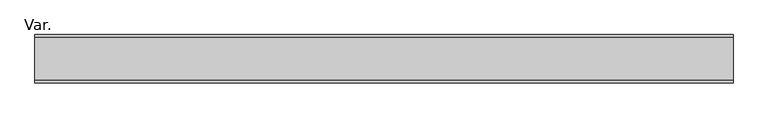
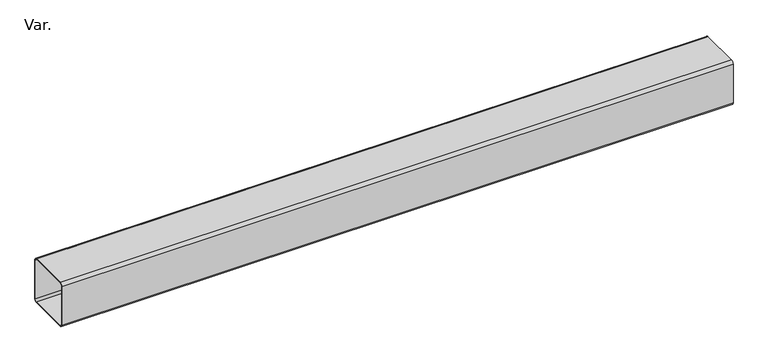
"""IFC4 building model written with IfcOpenShell, lengths in millimetres: pipe fitting geometry, PavcoWavin_UnionesDeTuberia_ZBajante Rainmax_NoUsarUnion : Var.."""

from ifc_helpers import new_model, si_unit, point, frame, frame_2d, origin, place, context, project, spatial, polyline, circle_curve, trimmed, segment, composite_curve, outline, extrude, source, transform, mapped, element, save


def var_6dfbb502(model_context):
    return source(origin(), model_context, "Body", "SweptSolid", [
        extrude(outline(composite_curve([segment(polyline([(51.825, 45.5), (51.825, -45.5)]), True, "CONTINUOUS"), segment(trimmed(circle_curve(frame_2d((45.5, -45.5)), 6.325), [point((51.825, -45.5))], [point((45.5, -51.825))], False, "CARTESIAN"), True, "CONTINUOUS"), segment(polyline([(45.5, -51.825), (-45.5, -51.825)]), True, "CONTINUOUS"), segment(trimmed(circle_curve(frame_2d((-45.5, -45.5)), 6.325), [point((-45.5, -51.825))], [point((-51.825, -45.5))], False, "CARTESIAN"), True, "CONTINUOUS"), segment(polyline([(-51.825, -45.5), (-51.825, 45.5)]), True, "CONTINUOUS"), segment(trimmed(circle_curve(frame_2d((-45.5, 45.5)), 6.325), [point((-51.825, 45.5))], [point((-45.5, 51.825))], False, "CARTESIAN"), True, "CONTINUOUS"), segment(polyline([(-45.5, 51.825), (45.5, 51.825)]), True, "CONTINUOUS"), segment(trimmed(circle_curve(frame_2d((45.5, 45.5)), 6.325), [point((45.5, 51.825))], [point((51.825, 45.5))], False, "CARTESIAN"), True, "CONTINUOUS")], self_intersect=False), holes=[composite_curve([segment(trimmed(circle_curve(frame_2d((45.5, 45.5)), 4.5), [point((50.0, 45.5))], [point((45.5, 50.0))], True, "CARTESIAN"), True, "CONTINUOUS"), segment(polyline([(45.5, 50.0), (-45.5, 50.0)]), True, "CONTINUOUS"), segment(trimmed(circle_curve(frame_2d((-45.5, 45.5)), 4.5), [point((-45.5, 50.0))], [point((-50.0, 45.5))], True, "CARTESIAN"), True, "CONTINUOUS"), segment(polyline([(-50.0, 45.5), (-50.0, -45.5)]), True, "CONTINUOUS"), segment(trimmed(circle_curve(frame_2d((-45.5, -45.5)), 4.5), [point((-50.0, -45.5))], [point((-45.5, -50.0))], True, "CARTESIAN"), True, "CONTINUOUS"), segment(polyline([(-45.5, -50.0), (45.5, -50.0)]), True, "CONTINUOUS"), segment(trimmed(circle_curve(frame_2d((45.5, -45.5)), 4.5), [point((45.5, -50.0))], [point((50.0, -45.5))], True, "CARTESIAN"), True, "CONTINUOUS"), segment(polyline([(50.0, -45.5), (50.0, 45.5)]), True, "CONTINUOUS")], self_intersect=False)]), frame((0.0, 0.0, 0.0), z_axis=(1.0, 0.0, 0.0), x_axis=(0.0, 1.0, 0.0)), (0.0, 0.0, 1.0), 1500.0),
    ])


if __name__ == "__main__":
    model = new_model("IFC4")
    model_context = context("Model", 3, world=origin())
    ifc_project = project(units=[si_unit("LENGTHUNIT", "METRE", prefix="MILLI")], contexts=[model_context])
    site = spatial("IfcSite", under=ifc_project)
    building = spatial("IfcBuilding", under=site)
    placement = place(None, origin())
    var_shape = var_6dfbb502(model_context)
    element("IfcPipeFitting", 1, ObjectType="PavcoWavin_UnionesDeTuberia_ZBajante Rainmax_NoUsarUnion : Var.", at=placement, inside=building, context=model_context, shape_type="MappedRepresentation", body=[
        mapped(var_shape, transform((0.0, 0.0, 0.0), x_axis=(1.0, 0.0, 0.0), y_axis=(0.0, 1.0, 0.0), z_axis=(0.0, 0.0, 1.0))),
    ])
    save(model, "model.ifc")
